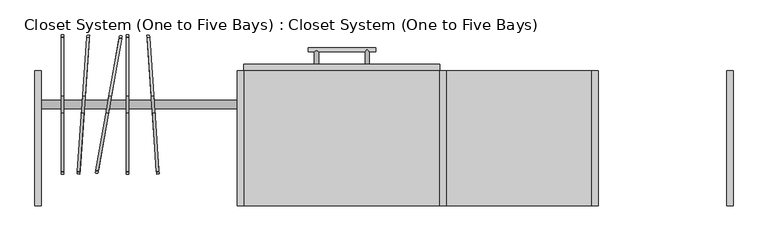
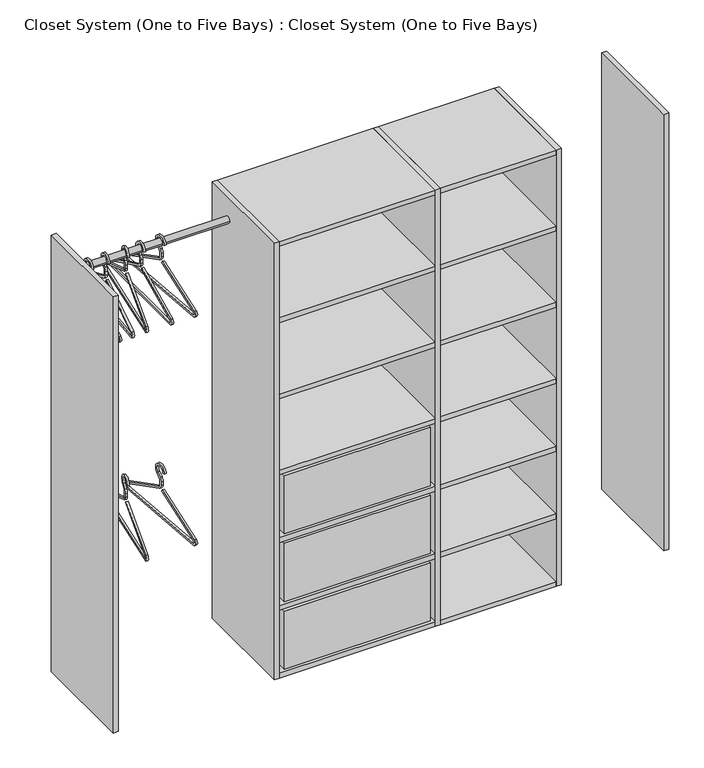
"""IFC4 building model written with IfcOpenShell, lengths in millimetres: furniture geometry, Closet System (One to Five Bays) : Closet System (One to Five Bays)."""

from ifc_helpers import new_model, si_unit, point, frame, frame_2d, origin, place, context, project, spatial, polyline, circle_curve, ellipse_curve, trimmed, segment, composite_curve, outline, extrude, faceted_brep, source, transform, mapped, element, save
from ifc_brep_helpers import plane_surface, cylinder_surface, advanced_brep


def closet_system_one_to_five_bays_closet_system_one_to_five_99dbb15d(model_context):
    return source(origin(), model_context, "Body", "SolidModel", [
        extrude(outline(polyline([(2101.85, 0.0), (2082.8, 0.0), (2082.8, 406.4), (2101.85, 406.4), (2101.85, 0.0)])), frame((0.0, 0.0, 82.55), z_axis=(0.0, 0.0, 1.0), x_axis=(1.0, 0.0, 0.0)), (0.0, 0.0, 1.0), 1746.25),
        extrude(outline(polyline([(1695.45, 0.0), (1676.4, 0.0), (1676.4, 406.4), (1695.45, 406.4), (1695.45, 0.0)])), frame((0.0, 0.0, 82.55), z_axis=(0.0, 0.0, 1.0), x_axis=(1.0, 0.0, 0.0)), (0.0, 0.0, 1.0), 1746.25),
        extrude(outline(polyline([(1238.25, 0.0), (1219.2, 0.0), (1219.2, 406.4), (1238.25, 406.4), (1238.25, 0.0)])), frame((0.0, 0.0, 82.55), z_axis=(0.0, 0.0, 1.0), x_axis=(1.0, 0.0, 0.0)), (0.0, 0.0, 1.0), 1746.25),
        extrude(outline(polyline([(628.65, 0.0), (609.6, 0.0), (609.6, 406.4), (628.65, 406.4), (628.65, 0.0)])), frame((0.0, 0.0, 82.55), z_axis=(0.0, 0.0, 1.0), x_axis=(1.0, 0.0, 0.0)), (0.0, 0.0, 1.0), 1746.25),
        extrude(outline(polyline([(19.05, 0.0), (0.0, 0.0), (0.0, 406.4), (19.05, 406.4), (19.05, 0.0)])), frame((0.0, 0.0, 82.55), z_axis=(0.0, 0.0, 1.0), x_axis=(1.0, 0.0, 0.0)), (0.0, 0.0, 1.0), 1746.25),
        faceted_brep([(1238.25, 406.4, 1200.15), (1238.25, 387.35, 1200.15), (1238.25, 0.0, 1200.15), (1238.25, 0.0, 1219.2), (1238.25, 387.35, 1219.2), (1238.25, 406.4, 1219.2), (1676.4, 0.0, 1200.15), (1676.4, 387.35, 1200.15), (1676.4, 406.4, 1200.15), (1676.4, 406.4, 1219.2), (1676.4, 387.35, 1219.2), (1676.4, 0.0, 1219.2)], [[[0, 1, 2, 3, 4, 5]], [[6, 7, 8, 9, 10, 11]], [[2, 1, 0, 8, 7, 6]], [[5, 9, 8, 0]], [[5, 4, 3, 11, 10, 9]], [[2, 6, 11, 3]]]),
        faceted_brep([(1238.25, 406.4, 1504.95), (1238.25, 387.35, 1504.95), (1238.25, 0.0, 1504.95), (1238.25, 0.0, 1524.0), (1238.25, 387.35, 1524.0), (1238.25, 406.4, 1524.0), (1676.4, 0.0, 1504.95), (1676.4, 387.35, 1504.95), (1676.4, 406.4, 1504.95), (1676.4, 406.4, 1524.0), (1676.4, 387.35, 1524.0), (1676.4, 0.0, 1524.0)], [[[0, 1, 2, 3, 4, 5]], [[6, 7, 8, 9, 10, 11]], [[2, 1, 0, 8, 7, 6]], [[5, 9, 8, 0]], [[5, 4, 3, 11, 10, 9]], [[2, 6, 11, 3]]]),
        faceted_brep([(1238.25, 406.4, 624.4166667), (1238.25, 387.35, 624.4166667), (1238.25, 0.0, 624.4166667), (1238.25, 0.0, 643.4666667), (1238.25, 387.35, 643.4666667), (1238.25, 406.4, 643.4666667), (1676.4, 0.0, 624.4166667), (1676.4, 387.35, 624.4166667), (1676.4, 406.4, 624.4166667), (1676.4, 406.4, 643.4666667), (1676.4, 387.35, 643.4666667), (1676.4, 0.0, 643.4666667)], [[[0, 1, 2, 3, 4, 5]], [[6, 7, 8, 9, 10, 11]], [[2, 1, 0, 8, 7, 6]], [[5, 9, 8, 0]], [[5, 4, 3, 11, 10, 9]], [[2, 6, 11, 3]]]),
        faceted_brep([(1238.25, 406.4, 353.4833333), (1238.25, 387.35, 353.4833333), (1238.25, 0.0, 353.4833333), (1238.25, 0.0, 372.5333333), (1238.25, 387.35, 372.5333333), (1238.25, 406.4, 372.5333333), (1676.4, 0.0, 372.5333333), (1676.4, 387.35, 372.5333333), (1676.4, 406.4, 372.5333333), (1676.4, 0.0, 353.4833333), (1676.4, 387.35, 353.4833333), (1676.4, 406.4, 353.4833333)], [[[0, 1, 2, 3, 4, 5]], [[5, 4, 3, 6, 7, 8]], [[2, 9, 6, 3]], [[9, 10, 11, 8, 7, 6]], [[2, 1, 0, 11, 10, 9]], [[5, 8, 11, 0]]]),
        faceted_brep([(1238.25, 406.4, 82.55), (1238.25, 387.35, 82.55), (1238.25, 0.0, 82.55), (1238.25, 0.0, 101.6), (1238.25, 387.35, 101.6), (1238.25, 406.4, 101.6), (1676.4, 0.0, 82.55), (1676.4, 387.35, 82.55), (1676.4, 406.4, 82.55), (1676.4, 406.4, 101.6), (1676.4, 387.35, 101.6), (1676.4, 0.0, 101.6)], [[[0, 1, 2, 3, 4, 5]], [[6, 7, 8, 9, 10, 11]], [[2, 1, 0, 8, 7, 6]], [[5, 9, 8, 0]], [[5, 4, 3, 11, 10, 9]], [[2, 6, 11, 3]]]),
        extrude(outline(polyline([(1676.4, 406.4), (1676.4, 0.0), (1238.25, 0.0), (1238.25, 406.4), (1676.4, 406.4)])), frame((0.0, 0.0, 895.35), z_axis=(0.0, 0.0, 1.0), x_axis=(1.0, 0.0, 0.0)), (0.0, 0.0, 1.0), 19.05),
        extrude(outline(polyline([(1676.4, 406.4), (1676.4, 0.0), (1238.25, 0.0), (1238.25, 406.4), (1676.4, 406.4)])), frame((0.0, 0.0, 1809.75), z_axis=(0.0, 0.0, 1.0), x_axis=(1.0, 0.0, 0.0)), (0.0, 0.0, 1.0), 19.05),
        advanced_brep(
        [(1006.475, 425.45, 769.4083333), (993.775, 425.45, 769.4083333), (1006.475, 463.55, 769.4083333), (1000.125, 469.9, 775.7583333), (993.775, 463.55, 769.4083333), (1000.125, 469.9, 763.0583333), (1025.525, 463.55, 769.4083333), (1025.525, 476.25, 769.4083333), (822.325, 463.55, 769.4083333), (822.325, 476.25, 769.4083333), (841.375, 463.55, 769.4083333), (847.725, 469.9, 775.7583333), (854.075, 463.55, 769.4083333), (847.725, 469.9, 763.0583333), (841.375, 425.45, 769.4083333), (854.075, 425.45, 769.4083333)],
        [
            (0, 1, circle_curve(frame((1000.125, 425.45, 769.4083333), z_axis=(0.0, -1.0, 0.0), x_axis=(-1.0, 0.0, 0.0)), 6.35)),
            (1, 0, circle_curve(frame((1000.125, 425.45, 769.4083333), z_axis=(0.0, -1.0, 0.0), x_axis=(-1.0, 0.0, 0.0)), 6.35)),
            (0, 2),
            (2, 3, ellipse_curve(frame((1000.125, 469.9, 769.4083333), z_axis=(-0.7071067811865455, -0.7071067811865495, 0.0), x_axis=(-0.7071067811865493, 0.7071067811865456, 0.0)), 8.9802561, 6.35)),
            (3, 4, ellipse_curve(frame((1000.125, 469.9, 769.4083333), z_axis=(0.7071067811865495, -0.7071067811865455, 0.0), x_axis=(0.7071067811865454, 0.7071067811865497, 0.0)), 8.9802561, 6.35)),
            (4, 1),
            (4, 5, ellipse_curve(frame((1000.125, 469.9, 769.4083333), z_axis=(0.7071067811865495, -0.7071067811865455, 0.0), x_axis=(0.7071067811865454, 0.7071067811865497, 0.0)), 8.9802561, 6.35)),
            (5, 2, ellipse_curve(frame((1000.125, 469.9, 769.4083333), z_axis=(-0.7071067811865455, -0.7071067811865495, 0.0), x_axis=(-0.7071067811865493, 0.7071067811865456, 0.0)), 8.9802561, 6.35)),
            (6, 7, circle_curve(frame((1025.525, 469.9, 769.4083333), z_axis=(1.0, 0.0, 0.0), x_axis=(0.0, 1.0, 0.0)), 6.35)),
            (7, 6, circle_curve(frame((1025.525, 469.9, 769.4083333), z_axis=(1.0, 0.0, 0.0), x_axis=(0.0, 1.0, 0.0)), 6.35)),
            (8, 9, circle_curve(frame((822.325, 469.9, 769.4083333), z_axis=(-1.0, 0.0, 0.0), x_axis=(0.0, 1.0, 0.0)), 6.35)),
            (9, 8, circle_curve(frame((822.325, 469.9, 769.4083333), z_axis=(-1.0, 0.0, 0.0), x_axis=(0.0, 1.0, 0.0)), 6.35)),
            (7, 9),
            (8, 10),
            (10, 11, ellipse_curve(frame((847.725, 469.9, 769.4083333), z_axis=(-0.7071067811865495, 0.7071067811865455, 0.0), x_axis=(0.7071067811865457, 0.7071067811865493, 0.0)), 8.9802561, 6.35)),
            (11, 12, ellipse_curve(frame((847.725, 469.9, 769.4083333), z_axis=(0.7071067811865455, 0.7071067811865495, 0.0), x_axis=(0.7071067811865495, -0.7071067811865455, 0.0)), 8.9802561, 6.35)),
            (12, 4),
            (2, 6),
            (12, 13, ellipse_curve(frame((847.725, 469.9, 769.4083333), z_axis=(0.7071067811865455, 0.7071067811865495, 0.0), x_axis=(0.7071067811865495, -0.7071067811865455, 0.0)), 8.9802561, 6.35)),
            (13, 10, ellipse_curve(frame((847.725, 469.9, 769.4083333), z_axis=(-0.7071067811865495, 0.7071067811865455, 0.0), x_axis=(0.7071067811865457, 0.7071067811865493, 0.0)), 8.9802561, 6.35)),
            (14, 15, circle_curve(frame((847.725, 425.45, 769.4083333), z_axis=(0.0, -1.0, 0.0), x_axis=(1.0, 0.0, 0.0)), 6.35)),
            (15, 14, circle_curve(frame((847.725, 425.45, 769.4083333), z_axis=(0.0, -1.0, 0.0), x_axis=(1.0, 0.0, 0.0)), 6.35)),
            (15, 12),
            (10, 14),
        ],
        [
            plane_surface(frame((1000.125, 425.45, 769.4083333), z_axis=(0.0, -1.0, 0.0), x_axis=(0.0, 0.0, 1.0))),
            cylinder_surface(frame((1000.125, 469.9, 769.4083333), z_axis=(0.0, 1.0, 0.0), x_axis=(-1.0, 0.0, 0.0)), 6.35),
            plane_surface(frame((1025.525, 469.9, 769.4083333), z_axis=(1.0, 0.0, 0.0), x_axis=(0.0, 0.0, 1.0))),
            plane_surface(frame((822.325, 469.9, 769.4083333), z_axis=(-1.0, 0.0, 0.0), x_axis=(0.0, 0.0, 1.0))),
            cylinder_surface(frame((1025.525, 469.9, 769.4083333), z_axis=(1.0, 0.0, 0.0), x_axis=(0.0, 1.0, 0.0)), 6.35),
            plane_surface(frame((847.725, 425.45, 769.4083333), z_axis=(0.0, -1.0, 0.0), x_axis=(0.0, 0.0, 1.0))),
            cylinder_surface(frame((847.725, 469.9, 769.4083333), z_axis=(0.0, 1.0, 0.0), x_axis=(1.0, 0.0, 0.0)), 6.35),
        ],
        [
            (0, [[1, 2]]),
            (1, [[3, 4, 5, 6, -1]]),
            (1, [[-6, 7, 8, -3, -2]]),
            (2, [[9, 10]]),
            (3, [[11, 12]]),
            (4, [[13, -11, 14, 15, 16, 17, -5, -4, 18, -10]]),
            (4, [[-18, -8, -7, -17, 19, 20, -14, -12, -13, -9]]),
            (5, [[21, 22]]),
            (6, [[23, -16, -15, 24, -22]]),
            (6, [[-24, -20, -19, -23, -21]]),
        ],
    ),
        extrude(outline(polyline([(1219.2, 425.45), (1219.2, 406.4), (628.65, 406.4), (628.65, 425.45), (1219.2, 425.45)])), frame((0.0, 0.0, 633.9416667), z_axis=(0.0, 0.0, 1.0), x_axis=(1.0, 0.0, 0.0)), (0.0, 0.0, 1.0), 270.9333333),
        faceted_brep([(1200.15, 0.0, 885.825), (1200.15, 406.4, 885.825), (647.7, 406.4, 885.825), (647.7, 0.0, 885.825), (1181.1, 19.05, 885.825), (666.75, 19.05, 885.825), (666.75, 387.35, 885.825), (1181.1, 387.35, 885.825), (1200.15, 0.0, 652.9916667), (647.7, 0.0, 652.9916667), (647.7, 406.4, 652.9916667), (1200.15, 406.4, 652.9916667), (1181.1, 387.35, 662.5166667), (1181.1, 19.05, 662.5166667), (666.75, 387.35, 662.5166667), (666.75, 19.05, 662.5166667)], [[[0, 1, 2, 3], [4, 5, 6, 7]], [[8, 9, 10, 11]], [[3, 9, 8, 0]], [[2, 10, 9, 3]], [[1, 11, 10, 2]], [[0, 8, 11, 1]], [[7, 12, 13, 4]], [[6, 14, 12, 7]], [[5, 15, 14, 6]], [[4, 13, 15, 5]], [[12, 14, 15, 13]]]),
        advanced_brep(
        [(1006.475, 425.45, 498.475), (993.775, 425.45, 498.475), (1006.475, 463.55, 498.475), (1000.125, 469.9, 504.825), (993.775, 463.55, 498.475), (1000.125, 469.9, 492.125), (1025.525, 463.55, 498.475), (1025.525, 476.25, 498.475), (822.325, 463.55, 498.475), (822.325, 476.25, 498.475), (841.375, 463.55, 498.475), (847.725, 469.9, 504.825), (854.075, 463.55, 498.475), (847.725, 469.9, 492.125), (841.375, 425.45, 498.475), (854.075, 425.45, 498.475)],
        [
            (0, 1, circle_curve(frame((1000.125, 425.45, 498.475), z_axis=(0.0, -1.0, 0.0), x_axis=(-1.0, 0.0, 0.0)), 6.35)),
            (1, 0, circle_curve(frame((1000.125, 425.45, 498.475), z_axis=(0.0, -1.0, 0.0), x_axis=(-1.0, 0.0, 0.0)), 6.35)),
            (0, 2),
            (2, 3, ellipse_curve(frame((1000.125, 469.9, 498.475), z_axis=(-0.7071067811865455, -0.7071067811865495, 0.0), x_axis=(-0.7071067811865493, 0.7071067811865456, 0.0)), 8.9802561, 6.35)),
            (3, 4, ellipse_curve(frame((1000.125, 469.9, 498.475), z_axis=(0.7071067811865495, -0.7071067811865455, 0.0), x_axis=(0.7071067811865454, 0.7071067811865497, 0.0)), 8.9802561, 6.35)),
            (4, 1),
            (4, 5, ellipse_curve(frame((1000.125, 469.9, 498.475), z_axis=(0.7071067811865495, -0.7071067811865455, 0.0), x_axis=(0.7071067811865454, 0.7071067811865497, 0.0)), 8.9802561, 6.35)),
            (5, 2, ellipse_curve(frame((1000.125, 469.9, 498.475), z_axis=(-0.7071067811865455, -0.7071067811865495, 0.0), x_axis=(-0.7071067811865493, 0.7071067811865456, 0.0)), 8.9802561, 6.35)),
            (6, 7, circle_curve(frame((1025.525, 469.9, 498.475), z_axis=(1.0, 0.0, 0.0), x_axis=(0.0, 1.0, 0.0)), 6.35)),
            (7, 6, circle_curve(frame((1025.525, 469.9, 498.475), z_axis=(1.0, 0.0, 0.0), x_axis=(0.0, 1.0, 0.0)), 6.35)),
            (8, 9, circle_curve(frame((822.325, 469.9, 498.475), z_axis=(-1.0, 0.0, 0.0), x_axis=(0.0, 1.0, 0.0)), 6.35)),
            (9, 8, circle_curve(frame((822.325, 469.9, 498.475), z_axis=(-1.0, 0.0, 0.0), x_axis=(0.0, 1.0, 0.0)), 6.35)),
            (7, 9),
            (8, 10),
            (10, 11, ellipse_curve(frame((847.725, 469.9, 498.475), z_axis=(-0.7071067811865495, 0.7071067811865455, 0.0), x_axis=(0.7071067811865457, 0.7071067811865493, 0.0)), 8.9802561, 6.35)),
            (11, 12, ellipse_curve(frame((847.725, 469.9, 498.475), z_axis=(0.7071067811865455, 0.7071067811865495, 0.0), x_axis=(0.7071067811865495, -0.7071067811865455, 0.0)), 8.9802561, 6.35)),
            (12, 4),
            (2, 6),
            (12, 13, ellipse_curve(frame((847.725, 469.9, 498.475), z_axis=(0.7071067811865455, 0.7071067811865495, 0.0), x_axis=(0.7071067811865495, -0.7071067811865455, 0.0)), 8.9802561, 6.35)),
            (13, 10, ellipse_curve(frame((847.725, 469.9, 498.475), z_axis=(-0.7071067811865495, 0.7071067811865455, 0.0), x_axis=(0.7071067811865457, 0.7071067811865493, 0.0)), 8.9802561, 6.35)),
            (14, 15, circle_curve(frame((847.725, 425.45, 498.475), z_axis=(0.0, -1.0, 0.0), x_axis=(1.0, 0.0, 0.0)), 6.35)),
            (15, 14, circle_curve(frame((847.725, 425.45, 498.475), z_axis=(0.0, -1.0, 0.0), x_axis=(1.0, 0.0, 0.0)), 6.35)),
            (15, 12),
            (10, 14),
        ],
        [
            plane_surface(frame((1000.125, 425.45, 498.475), z_axis=(0.0, -1.0, 0.0), x_axis=(0.0, 0.0, 1.0))),
            cylinder_surface(frame((1000.125, 469.9, 498.475), z_axis=(0.0, 1.0, 0.0), x_axis=(-1.0, 0.0, 0.0)), 6.35),
            plane_surface(frame((1025.525, 469.9, 498.475), z_axis=(1.0, 0.0, 0.0), x_axis=(0.0, 0.0, 1.0))),
            plane_surface(frame((822.325, 469.9, 498.475), z_axis=(-1.0, 0.0, 0.0), x_axis=(0.0, 0.0, 1.0))),
            cylinder_surface(frame((1025.525, 469.9, 498.475), z_axis=(1.0, 0.0, 0.0), x_axis=(0.0, 1.0, 0.0)), 6.35),
            plane_surface(frame((847.725, 425.45, 498.475), z_axis=(0.0, -1.0, 0.0), x_axis=(0.0, 0.0, 1.0))),
            cylinder_surface(frame((847.725, 469.9, 498.475), z_axis=(0.0, 1.0, 0.0), x_axis=(1.0, 0.0, 0.0)), 6.35),
        ],
        [
            (0, [[1, 2]]),
            (1, [[3, 4, 5, 6, -1]]),
            (1, [[-6, 7, 8, -3, -2]]),
            (2, [[9, 10]]),
            (3, [[11, 12]]),
            (4, [[13, -11, 14, 15, 16, 17, -5, -4, 18, -10]]),
            (4, [[-18, -8, -7, -17, 19, 20, -14, -12, -13, -9]]),
            (5, [[21, 22]]),
            (6, [[23, -16, -15, 24, -22]]),
            (6, [[-24, -20, -19, -23, -21]]),
        ],
    ),
        extrude(outline(polyline([(1219.2, 425.45), (1219.2, 406.4), (628.65, 406.4), (628.65, 425.45), (1219.2, 425.45)])), frame((0.0, 0.0, 363.0083333), z_axis=(0.0, 0.0, 1.0), x_axis=(1.0, 0.0, 0.0)), (0.0, 0.0, 1.0), 270.9333333),
        faceted_brep([(1200.15, 0.0, 614.8916667), (1200.15, 406.4, 614.8916667), (647.7, 406.4, 614.8916667), (647.7, 0.0, 614.8916667), (1181.1, 19.05, 614.8916667), (666.75, 19.05, 614.8916667), (666.75, 387.35, 614.8916667), (1181.1, 387.35, 614.8916667), (1200.15, 0.0, 382.0583333), (647.7, 0.0, 382.0583333), (647.7, 406.4, 382.0583333), (1200.15, 406.4, 382.0583333), (1181.1, 387.35, 391.5833333), (1181.1, 19.05, 391.5833333), (666.75, 387.35, 391.5833333), (666.75, 19.05, 391.5833333)], [[[0, 1, 2, 3], [4, 5, 6, 7]], [[8, 9, 10, 11]], [[3, 9, 8, 0]], [[2, 10, 9, 3]], [[1, 11, 10, 2]], [[0, 8, 11, 1]], [[7, 12, 13, 4]], [[6, 14, 12, 7]], [[5, 15, 14, 6]], [[4, 13, 15, 5]], [[12, 14, 15, 13]]]),
        advanced_brep(
        [(1006.475, 425.45, 227.5416667), (993.775, 425.45, 227.5416667), (1006.475, 463.55, 227.5416667), (1000.125, 469.9, 233.8916667), (993.775, 463.55, 227.5416667), (1000.125, 469.9, 221.1916667), (1025.525, 463.55, 227.5416667), (1025.525, 476.25, 227.5416667), (822.325, 463.55, 227.5416667), (822.325, 476.25, 227.5416667), (841.375, 463.55, 227.5416667), (847.725, 469.9, 233.8916667), (854.075, 463.55, 227.5416667), (847.725, 469.9, 221.1916667), (841.375, 425.45, 227.5416667), (854.075, 425.45, 227.5416667)],
        [
            (0, 1, circle_curve(frame((1000.125, 425.45, 227.5416667), z_axis=(0.0, -1.0, 0.0), x_axis=(-1.0, 0.0, 0.0)), 6.35)),
            (1, 0, circle_curve(frame((1000.125, 425.45, 227.5416667), z_axis=(0.0, -1.0, 0.0), x_axis=(-1.0, 0.0, 0.0)), 6.35)),
            (0, 2),
            (2, 3, ellipse_curve(frame((1000.125, 469.9, 227.5416667), z_axis=(-0.7071067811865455, -0.7071067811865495, 0.0), x_axis=(-0.7071067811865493, 0.7071067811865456, 0.0)), 8.9802561, 6.35)),
            (3, 4, ellipse_curve(frame((1000.125, 469.9, 227.5416667), z_axis=(0.7071067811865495, -0.7071067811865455, 0.0), x_axis=(0.7071067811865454, 0.7071067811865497, 0.0)), 8.9802561, 6.35)),
            (4, 1),
            (4, 5, ellipse_curve(frame((1000.125, 469.9, 227.5416667), z_axis=(0.7071067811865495, -0.7071067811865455, 0.0), x_axis=(0.7071067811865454, 0.7071067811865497, 0.0)), 8.9802561, 6.35)),
            (5, 2, ellipse_curve(frame((1000.125, 469.9, 227.5416667), z_axis=(-0.7071067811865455, -0.7071067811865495, 0.0), x_axis=(-0.7071067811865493, 0.7071067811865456, 0.0)), 8.9802561, 6.35)),
            (6, 7, circle_curve(frame((1025.525, 469.9, 227.5416667), z_axis=(1.0, 0.0, 0.0), x_axis=(0.0, 1.0, 0.0)), 6.35)),
            (7, 6, circle_curve(frame((1025.525, 469.9, 227.5416667), z_axis=(1.0, 0.0, 0.0), x_axis=(0.0, 1.0, 0.0)), 6.35)),
            (8, 9, circle_curve(frame((822.325, 469.9, 227.5416667), z_axis=(-1.0, 0.0, 0.0), x_axis=(0.0, 1.0, 0.0)), 6.35)),
            (9, 8, circle_curve(frame((822.325, 469.9, 227.5416667), z_axis=(-1.0, 0.0, 0.0), x_axis=(0.0, 1.0, 0.0)), 6.35)),
            (7, 9),
            (8, 10),
            (10, 11, ellipse_curve(frame((847.725, 469.9, 227.5416667), z_axis=(-0.7071067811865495, 0.7071067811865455, 0.0), x_axis=(0.7071067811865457, 0.7071067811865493, 0.0)), 8.9802561, 6.35)),
            (11, 12, ellipse_curve(frame((847.725, 469.9, 227.5416667), z_axis=(0.7071067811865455, 0.7071067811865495, 0.0), x_axis=(0.7071067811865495, -0.7071067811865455, 0.0)), 8.9802561, 6.35)),
            (12, 4),
            (2, 6),
            (12, 13, ellipse_curve(frame((847.725, 469.9, 227.5416667), z_axis=(0.7071067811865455, 0.7071067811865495, 0.0), x_axis=(0.7071067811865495, -0.7071067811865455, 0.0)), 8.9802561, 6.35)),
            (13, 10, ellipse_curve(frame((847.725, 469.9, 227.5416667), z_axis=(-0.7071067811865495, 0.7071067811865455, 0.0), x_axis=(0.7071067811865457, 0.7071067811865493, 0.0)), 8.9802561, 6.35)),
            (14, 15, circle_curve(frame((847.725, 425.45, 227.5416667), z_axis=(0.0, -1.0, 0.0), x_axis=(1.0, 0.0, 0.0)), 6.35)),
            (15, 14, circle_curve(frame((847.725, 425.45, 227.5416667), z_axis=(0.0, -1.0, 0.0), x_axis=(1.0, 0.0, 0.0)), 6.35)),
            (15, 12),
            (10, 14),
        ],
        [
            plane_surface(frame((1000.125, 425.45, 227.5416667), z_axis=(0.0, -1.0, 0.0), x_axis=(0.0, 0.0, 1.0))),
            cylinder_surface(frame((1000.125, 469.9, 227.5416667), z_axis=(0.0, 1.0, 0.0), x_axis=(-1.0, 0.0, 0.0)), 6.35),
            plane_surface(frame((1025.525, 469.9, 227.5416667), z_axis=(1.0, 0.0, 0.0), x_axis=(0.0, 0.0, 1.0))),
            plane_surface(frame((822.325, 469.9, 227.5416667), z_axis=(-1.0, 0.0, 0.0), x_axis=(0.0, 0.0, 1.0))),
            cylinder_surface(frame((1025.525, 469.9, 227.5416667), z_axis=(1.0, 0.0, 0.0), x_axis=(0.0, 1.0, 0.0)), 6.35),
            plane_surface(frame((847.725, 425.45, 227.5416667), z_axis=(0.0, -1.0, 0.0), x_axis=(0.0, 0.0, 1.0))),
            cylinder_surface(frame((847.725, 469.9, 227.5416667), z_axis=(0.0, 1.0, 0.0), x_axis=(1.0, 0.0, 0.0)), 6.35),
        ],
        [
            (0, [[1, 2]]),
            (1, [[3, 4, 5, 6, -1]]),
            (1, [[-6, 7, 8, -3, -2]]),
            (2, [[9, 10]]),
            (3, [[11, 12]]),
            (4, [[13, -11, 14, 15, 16, 17, -5, -4, 18, -10]]),
            (4, [[-18, -8, -7, -17, 19, 20, -14, -12, -13, -9]]),
            (5, [[21, 22]]),
            (6, [[23, -16, -15, 24, -22]]),
            (6, [[-24, -20, -19, -23, -21]]),
        ],
    ),
        extrude(outline(polyline([(1219.2, 425.45), (1219.2, 406.4), (628.65, 406.4), (628.65, 425.45), (1219.2, 425.45)])), frame((0.0, 0.0, 92.075), z_axis=(0.0, 0.0, 1.0), x_axis=(1.0, 0.0, 0.0)), (0.0, 0.0, 1.0), 270.9333333),
        faceted_brep([(1200.15, 0.0, 343.9583333), (1200.15, 406.4, 343.9583333), (647.7, 406.4, 343.9583333), (647.7, 0.0, 343.9583333), (1181.1, 19.05, 343.9583333), (666.75, 19.05, 343.9583333), (666.75, 387.35, 343.9583333), (1181.1, 387.35, 343.9583333), (1200.15, 0.0, 111.125), (647.7, 0.0, 111.125), (647.7, 406.4, 111.125), (1200.15, 406.4, 111.125), (1181.1, 387.35, 120.65), (1181.1, 19.05, 120.65), (666.75, 387.35, 120.65), (666.75, 19.05, 120.65)], [[[0, 1, 2, 3], [4, 5, 6, 7]], [[8, 9, 10, 11]], [[3, 9, 8, 0]], [[2, 10, 9, 3]], [[1, 11, 10, 2]], [[0, 8, 11, 1]], [[7, 12, 13, 4]], [[6, 14, 12, 7]], [[5, 15, 14, 6]], [[4, 13, 15, 5]], [[12, 14, 15, 13]]]),
        faceted_brep([(628.65, 406.4, 1200.15), (628.65, 387.35, 1200.15), (628.65, 0.0, 1200.15), (628.65, 0.0, 1219.2), (628.65, 387.35, 1219.2), (628.65, 406.4, 1219.2), (1219.2, 0.0, 1200.15), (1219.2, 387.35, 1200.15), (1219.2, 406.4, 1200.15), (1219.2, 406.4, 1219.2), (1219.2, 387.35, 1219.2), (1219.2, 0.0, 1219.2)], [[[0, 1, 2, 3, 4, 5]], [[6, 7, 8, 9, 10, 11]], [[2, 1, 0, 8, 7, 6]], [[5, 9, 8, 0]], [[5, 4, 3, 11, 10, 9]], [[2, 6, 11, 3]]]),
        faceted_brep([(628.65, 406.4, 1504.95), (628.65, 387.35, 1504.95), (628.65, 0.0, 1504.95), (628.65, 0.0, 1524.0), (628.65, 387.35, 1524.0), (628.65, 406.4, 1524.0), (1219.2, 0.0, 1504.95), (1219.2, 387.35, 1504.95), (1219.2, 406.4, 1504.95), (1219.2, 406.4, 1524.0), (1219.2, 387.35, 1524.0), (1219.2, 0.0, 1524.0)], [[[0, 1, 2, 3, 4, 5]], [[6, 7, 8, 9, 10, 11]], [[2, 1, 0, 8, 7, 6]], [[5, 9, 8, 0]], [[5, 4, 3, 11, 10, 9]], [[2, 6, 11, 3]]]),
        faceted_brep([(628.65, 406.4, 624.4166667), (628.65, 387.35, 624.4166667), (628.65, 0.0, 624.4166667), (628.65, 0.0, 643.4666667), (628.65, 387.35, 643.4666667), (628.65, 406.4, 643.4666667), (1219.2, 0.0, 624.4166667), (1219.2, 387.35, 624.4166667), (1219.2, 406.4, 624.4166667), (1219.2, 406.4, 643.4666667), (1219.2, 387.35, 643.4666667), (1219.2, 0.0, 643.4666667)], [[[0, 1, 2, 3, 4, 5]], [[6, 7, 8, 9, 10, 11]], [[2, 1, 0, 8, 7, 6]], [[5, 9, 8, 0]], [[5, 4, 3, 11, 10, 9]], [[2, 6, 11, 3]]]),
        faceted_brep([(628.65, 406.4, 353.4833333), (628.65, 387.35, 353.4833333), (628.65, 0.0, 353.4833333), (628.65, 0.0, 372.5333333), (628.65, 387.35, 372.5333333), (628.65, 406.4, 372.5333333), (1219.2, 0.0, 353.4833333), (1219.2, 387.35, 353.4833333), (1219.2, 406.4, 353.4833333), (1219.2, 406.4, 372.5333333), (1219.2, 387.35, 372.5333333), (1219.2, 0.0, 372.5333333)], [[[0, 1, 2, 3, 4, 5]], [[6, 7, 8, 9, 10, 11]], [[2, 1, 0, 8, 7, 6]], [[5, 9, 8, 0]], [[5, 4, 3, 11, 10, 9]], [[2, 6, 11, 3]]]),
        faceted_brep([(628.65, 406.4, 82.55), (628.65, 387.35, 82.55), (628.65, 0.0, 82.55), (628.65, 0.0, 101.6), (628.65, 387.35, 101.6), (628.65, 406.4, 101.6), (1219.2, 0.0, 82.55), (1219.2, 387.35, 82.55), (1219.2, 406.4, 82.55), (1219.2, 406.4, 101.6), (1219.2, 387.35, 101.6), (1219.2, 0.0, 101.6)], [[[0, 1, 2, 3, 4, 5]], [[6, 7, 8, 9, 10, 11]], [[2, 1, 0, 8, 7, 6]], [[5, 9, 8, 0]], [[5, 4, 3, 11, 10, 9]], [[2, 6, 11, 3]]]),
        extrude(outline(polyline([(1219.2, 406.4), (1219.2, 0.0), (628.65, 0.0), (628.65, 406.4), (1219.2, 406.4)])), frame((0.0, 0.0, 895.35), z_axis=(0.0, 0.0, 1.0), x_axis=(1.0, 0.0, 0.0)), (0.0, 0.0, 1.0), 19.05),
        extrude(outline(polyline([(1219.2, 406.4), (1219.2, 0.0), (628.65, 0.0), (628.65, 406.4), (1219.2, 406.4)])), frame((0.0, 0.0, 1809.75), z_axis=(0.0, 0.0, 1.0), x_axis=(1.0, 0.0, 0.0)), (0.0, 0.0, 1.0), 19.05),
        extrude(outline(composite_curve([segment(polyline([(0.0, 7.62), (209.55, 7.62)]), True, "CONTINUOUS"), segment(trimmed(circle_curve(frame_2d((209.55, -5.08)), 12.7), [point((209.55, 7.62))], [point((215.0168758, -16.5431265))], False, "CARTESIAN"), True, "CONTINUOUS"), segment(polyline([(215.0168758, -16.5431265), (-140.3400452, -186.0162767)]), True, "CONTINUOUS"), segment(trimmed(circle_curve(frame_2d((-145.806921, -174.5531502)), 12.7), [point((-140.3400452, -186.0162767))], [point((-155.675817, -166.559722))], False, "CARTESIAN"), True, "CONTINUOUS"), segment(polyline([(-155.675817, -166.559722), (-19.6406824, 1.3928203)]), True, "CONTINUOUS"), segment(trimmed(circle_curve(frame_2d((-29.5095783, 9.3862485)), 12.7), [point((-19.6406824, 1.3928203))], [point((-18.0464518, 14.8531243))], True, "CARTESIAN"), True, "CONTINUOUS"), segment(polyline([(-18.0464518, 14.8531243), (-24.2041701, 27.7648322)]), True, "CONTINUOUS"), segment(trimmed(circle_curve(frame_2d((-35.6672966, 22.2979563)), 12.7), [point((-24.2041701, 27.7648322))], [point((-31.4273071, 34.2692757))], True, "CARTESIAN"), True, "CONTINUOUS"), segment(polyline([(-31.4273071, 34.2692757), (-50.411263, 40.9929937)]), True, "CONTINUOUS"), segment(trimmed(circle_curve(frame_2d((-41.931284, 64.9356325)), 25.4), [point((-50.411263, 40.9929937))], [point((-19.005031, 75.8693841))], False, "CARTESIAN"), True, "CONTINUOUS"), segment(polyline([(-19.005031, 75.8693841), (-25.882907, 72.5892586)]), True, "CONTINUOUS"), segment(trimmed(circle_curve(frame_2d((-41.931284, 64.9356325)), 17.78), [point((-25.882907, 72.5892586))], [point((-47.8672693, 48.1757852))], True, "CARTESIAN"), True, "CONTINUOUS"), segment(polyline([(-47.8672693, 48.1757852), (-28.8833133, 41.4520674)]), True, "CONTINUOUS"), segment(trimmed(circle_curve(frame_2d((-35.6672966, 22.2979563)), 20.32), [point((-28.8833133, 41.4520674))], [point((-17.3262942, 31.0449576))], False, "CARTESIAN"), True, "CONTINUOUS"), segment(polyline([(-17.3262942, 31.0449576), (-11.1685759, 18.1332497)]), True, "CONTINUOUS"), segment(trimmed(circle_curve(frame_2d((-29.5095783, 9.3862485)), 20.32), [point((-11.1685759, 18.1332497))], [point((-13.7193449, -3.4032366))], False, "CARTESIAN"), True, "CONTINUOUS"), segment(polyline([(-13.7193449, -3.4032366), (-149.7544794, -171.3557789)]), True, "CONTINUOUS"), segment(trimmed(circle_curve(frame_2d((-145.806921, -174.5531502)), 5.08), [point((-149.7544794, -171.3557789))], [point((-143.6201707, -179.1384008))], True, "CARTESIAN"), True, "CONTINUOUS"), segment(polyline([(-143.6201707, -179.1384008), (211.7367503, -9.6652506)]), True, "CONTINUOUS"), segment(trimmed(circle_curve(frame_2d((209.55, -5.08)), 5.08), [point((211.7367503, -9.6652506))], [point((209.55, 0.0))], True, "CARTESIAN"), True, "CONTINUOUS"), segment(polyline([(209.55, 0.0), (0.0, 0.0), (0.0, 7.62)]), True, "CONTINUOUS")], self_intersect=False)), frame((224.2838405, 294.3935669, 1663.2387015), z_axis=(-0.9848077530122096, 0.17364817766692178, 0.0), x_axis=(-0.15673630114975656, -0.8888957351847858, -0.4304626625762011)), (0.0, 0.0, 1.0), 7.62),
        extrude(outline(composite_curve([segment(polyline([(1e-07, 7.62), (209.55, 7.6199999)]), True, "CONTINUOUS"), segment(trimmed(circle_curve(frame_2d((209.55, 12.6999999)), 5.08), [point((209.55, 7.6199999))], [point((211.7367504, 17.2852505))], True, "CARTESIAN"), True, "CONTINUOUS"), segment(polyline([(211.7367504, 17.2852505), (-143.6201707, 186.7584008)]), True, "CONTINUOUS"), segment(trimmed(circle_curve(frame_2d((-145.806921, 182.1731502)), 5.08), [point((-143.6201707, 186.7584008))], [point((-149.7544794, 178.9757789))], True, "CARTESIAN"), True, "CONTINUOUS"), segment(polyline([(-149.7544794, 178.9757789), (-13.7193448, 11.0232366)]), True, "CONTINUOUS"), segment(trimmed(circle_curve(frame_2d((-29.5095783, -1.7662484)), 20.32), [point((-13.7193448, 11.0232366))], [point((-11.1685759, -10.5132497))], False, "CARTESIAN"), True, "CONTINUOUS"), segment(polyline([(-11.1685759, -10.5132497), (-17.3262942, -23.4249576)]), True, "CONTINUOUS"), segment(trimmed(circle_curve(frame_2d((-35.6672966, -14.6779563)), 20.32), [point((-17.3262942, -23.4249576))], [point((-28.8833133, -33.8320674))], False, "CARTESIAN"), True, "CONTINUOUS"), segment(polyline([(-28.8833133, -33.8320674), (-47.8672693, -40.5557852)]), True, "CONTINUOUS"), segment(trimmed(circle_curve(frame_2d((-41.931284, -57.3156325)), 17.78), [point((-47.8672693, -40.5557852))], [point((-25.8829069, -64.9692586))], True, "CARTESIAN"), True, "CONTINUOUS"), segment(polyline([(-25.8829069, -64.9692586), (-19.0050311, -68.2493841)]), True, "CONTINUOUS"), segment(trimmed(circle_curve(frame_2d((-41.931284, -57.3156325)), 25.4), [point((-19.0050311, -68.2493841))], [point((-50.4112631, -33.3729936))], False, "CARTESIAN"), True, "CONTINUOUS"), segment(polyline([(-50.4112631, -33.3729936), (-31.427307, -26.6492757)]), True, "CONTINUOUS"), segment(trimmed(circle_curve(frame_2d((-35.6672966, -14.6779563)), 12.7), [point((-31.427307, -26.6492757))], [point((-24.20417, -20.1448322))], True, "CARTESIAN"), True, "CONTINUOUS"), segment(polyline([(-24.20417, -20.1448322), (-18.0464518, -7.2331243)]), True, "CONTINUOUS"), segment(trimmed(circle_curve(frame_2d((-29.5095783, -1.7662484)), 12.7), [point((-18.0464518, -7.2331243))], [point((-19.6406824, 6.2271797))], True, "CARTESIAN"), True, "CONTINUOUS"), segment(polyline([(-19.6406824, 6.2271797), (-155.6758169, 174.179722)]), True, "CONTINUOUS"), segment(trimmed(circle_curve(frame_2d((-145.806921, 182.1731502)), 12.7), [point((-155.6758169, 174.179722))], [point((-140.3400452, 193.6362767))], False, "CARTESIAN"), True, "CONTINUOUS"), segment(polyline([(-140.3400452, 193.6362767), (215.0168759, 24.1631264)]), True, "CONTINUOUS"), segment(trimmed(circle_curve(frame_2d((209.55, 12.6999999)), 12.7), [point((215.0168759, 24.1631264))], [point((209.55, 0.0))], False, "CARTESIAN"), True, "CONTINUOUS"), segment(polyline([(209.55, 0.0), (0.0, 0.0), (1e-07, 7.62)]), True, "CONTINUOUS")], self_intersect=False)), frame((352.7183427, 291.3910334, 1670.1165774), z_axis=(0.9975640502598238, 0.0697564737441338, 0.0), x_axis=(0.06296277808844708, -0.9004096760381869, -0.4304626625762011)), (0.0, 0.0, 1.0), 7.62),
        extrude(outline(composite_curve([segment(polyline([(-1e-07, 7.62), (209.5499999, 7.62)]), True, "CONTINUOUS"), segment(trimmed(circle_curve(frame_2d((209.55, -5.08)), 12.7), [point((209.5499999, 7.62))], [point((215.0168758, -16.5431265))], False, "CARTESIAN"), True, "CONTINUOUS"), segment(polyline([(215.0168758, -16.5431265), (-140.3400453, -186.0162767)]), True, "CONTINUOUS"), segment(trimmed(circle_curve(frame_2d((-145.8069211, -174.5531502)), 12.7), [point((-140.3400453, -186.0162767))], [point((-155.675817, -166.5597221))], False, "CARTESIAN"), True, "CONTINUOUS"), segment(polyline([(-155.675817, -166.5597221), (-19.6406825, 1.3928202)]), True, "CONTINUOUS"), segment(trimmed(circle_curve(frame_2d((-29.5095784, 9.3862484)), 12.7), [point((-19.6406825, 1.3928202))], [point((-18.0464518, 14.8531243))], True, "CARTESIAN"), True, "CONTINUOUS"), segment(polyline([(-18.0464518, 14.8531243), (-24.2041701, 27.7648321)]), True, "CONTINUOUS"), segment(trimmed(circle_curve(frame_2d((-35.6672967, 22.2979563)), 12.7), [point((-24.2041701, 27.7648321))], [point((-31.4273071, 34.2692757))], True, "CARTESIAN"), True, "CONTINUOUS"), segment(polyline([(-31.4273071, 34.2692757), (-50.4112631, 40.9929936)]), True, "CONTINUOUS"), segment(trimmed(circle_curve(frame_2d((-41.931284, 64.9356325)), 25.4), [point((-50.4112631, 40.9929936))], [point((-19.0050311, 75.8693841))], False, "CARTESIAN"), True, "CONTINUOUS"), segment(polyline([(-19.0050311, 75.8693841), (-25.882907, 72.5892586)]), True, "CONTINUOUS"), segment(trimmed(circle_curve(frame_2d((-41.931284, 64.9356325)), 17.78), [point((-25.882907, 72.5892586))], [point((-47.8672694, 48.1757852))], True, "CARTESIAN"), True, "CONTINUOUS"), segment(polyline([(-47.8672694, 48.1757852), (-28.8833134, 41.4520674)]), True, "CONTINUOUS"), segment(trimmed(circle_curve(frame_2d((-35.6672967, 22.2979563)), 20.32), [point((-28.8833134, 41.4520674))], [point((-17.3262943, 31.0449576))], False, "CARTESIAN"), True, "CONTINUOUS"), segment(polyline([(-17.3262943, 31.0449576), (-11.168576, 18.1332497)]), True, "CONTINUOUS"), segment(trimmed(circle_curve(frame_2d((-29.5095784, 9.3862484)), 20.32), [point((-11.168576, 18.1332497))], [point((-13.7193449, -3.4032366))], False, "CARTESIAN"), True, "CONTINUOUS"), segment(polyline([(-13.7193449, -3.4032366), (-149.7544794, -171.355779)]), True, "CONTINUOUS"), segment(trimmed(circle_curve(frame_2d((-145.8069211, -174.5531502)), 5.08), [point((-149.7544794, -171.355779))], [point((-143.6201708, -179.1384008))], True, "CARTESIAN"), True, "CONTINUOUS"), segment(polyline([(-143.6201708, -179.1384008), (211.7367503, -9.6652506)]), True, "CONTINUOUS"), segment(trimmed(circle_curve(frame_2d((209.55, -5.08)), 5.08), [point((211.7367503, -9.6652506))], [point((209.55, 0.0))], True, "CARTESIAN"), True, "CONTINUOUS"), segment(polyline([(209.55, 0.0), (0.0, 0.0), (-1e-07, 7.62)]), True, "CONTINUOUS")], self_intersect=False)), frame((149.1604673, 294.6631686, 1663.2387015), z_axis=(-0.9975640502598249, 0.0697564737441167, 0.0), x_axis=(-0.06296277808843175, -0.900409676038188, -0.4304626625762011)), (0.0, 0.0, 1.0), 7.62),
        extrude(outline(composite_curve([segment(polyline([(294.9048367, 1663.2387015), (105.7632497, 1573.0352506)]), True, "CONTINUOUS"), segment(trimmed(circle_curve(frame_2d((107.95, 1568.45)), 5.08), [point((105.7632497, 1573.0352506))], [point((107.95, 1563.37))], True, "CARTESIAN"), True, "CONTINUOUS"), segment(polyline([(107.95, 1563.37), (501.65, 1563.37)]), True, "CONTINUOUS"), segment(trimmed(circle_curve(frame_2d((501.65, 1568.45)), 5.08), [point((501.65, 1563.37))], [point((503.8367503, 1573.0352506))], True, "CARTESIAN"), True, "CONTINUOUS"), segment(polyline([(503.8367503, 1573.0352506), (308.7529987, 1666.0725773)]), True, "CONTINUOUS"), segment(trimmed(circle_curve(frame_2d((317.5, 1684.4135797)), 20.32), [point((308.7529987, 1666.0725773))], [point((297.18, 1684.4135797))], False, "CARTESIAN"), True, "CONTINUOUS"), segment(polyline([(297.18, 1684.4135797), (297.18, 1698.7184633)]), True, "CONTINUOUS"), segment(trimmed(circle_curve(frame_2d((317.5, 1698.7184633)), 20.32), [point((297.18, 1698.7184633))], [point((303.1315902, 1713.0868731))], False, "CARTESIAN"), True, "CONTINUOUS"), segment(polyline([(303.1315902, 1713.0868731), (317.3723586, 1727.3276414)]), True, "CONTINUOUS"), segment(trimmed(circle_curve(frame_2d((304.8, 1739.9)), 17.78), [point((317.3723586, 1727.3276414))], [point((287.02, 1739.9))], True, "CARTESIAN"), True, "CONTINUOUS"), segment(polyline([(287.02, 1739.9), (279.4, 1739.9)]), True, "CONTINUOUS"), segment(trimmed(circle_curve(frame_2d((304.8, 1739.9)), 25.4), [point((279.4, 1739.9))], [point((322.7605122, 1721.9394878))], False, "CARTESIAN"), True, "CONTINUOUS"), segment(polyline([(322.7605122, 1721.9394878), (308.5197439, 1707.6987194)]), True, "CONTINUOUS"), segment(trimmed(circle_curve(frame_2d((317.5, 1698.7184633)), 12.7), [point((308.5197439, 1707.6987194))], [point((304.8, 1698.7184633))], True, "CARTESIAN"), True, "CONTINUOUS"), segment(polyline([(304.8, 1698.7184633), (304.8, 1684.4135797)]), True, "CONTINUOUS"), segment(trimmed(circle_curve(frame_2d((317.5, 1684.4135797)), 12.7), [point((304.8, 1684.4135797))], [point((312.0331242, 1672.9504532))], True, "CARTESIAN"), True, "CONTINUOUS"), segment(polyline([(312.0331242, 1672.9504532), (507.1168758, 1579.9131265)]), True, "CONTINUOUS"), segment(trimmed(circle_curve(frame_2d((501.65, 1568.45)), 12.7), [point((507.1168758, 1579.9131265))], [point((501.65, 1555.75))], False, "CARTESIAN"), True, "CONTINUOUS"), segment(polyline([(501.65, 1555.75), (107.95, 1555.75)]), True, "CONTINUOUS"), segment(trimmed(circle_curve(frame_2d((107.95, 1568.45)), 12.7), [point((107.95, 1555.75))], [point((102.4831242, 1579.9131265))], False, "CARTESIAN"), True, "CONTINUOUS"), segment(polyline([(102.4831242, 1579.9131265), (291.6247112, 1670.1165774), (294.9048367, 1663.2387015)]), True, "CONTINUOUS")], self_intersect=False)), frame((275.59, 0.0, 0.0), z_axis=(1.0, 0.0, 0.0), x_axis=(0.0, 1.0, 0.0)), (0.0, 0.0, 1.0), 7.62),
        extrude(outline(composite_curve([segment(polyline([(294.9048367, 1663.2387015), (105.7632497, 1573.0352506)]), True, "CONTINUOUS"), segment(trimmed(circle_curve(frame_2d((107.95, 1568.45)), 5.08), [point((105.7632497, 1573.0352506))], [point((107.95, 1563.37))], True, "CARTESIAN"), True, "CONTINUOUS"), segment(polyline([(107.95, 1563.37), (501.65, 1563.37)]), True, "CONTINUOUS"), segment(trimmed(circle_curve(frame_2d((501.65, 1568.45)), 5.08), [point((501.65, 1563.37))], [point((503.8367503, 1573.0352506))], True, "CARTESIAN"), True, "CONTINUOUS"), segment(polyline([(503.8367503, 1573.0352506), (308.7529987, 1666.0725773)]), True, "CONTINUOUS"), segment(trimmed(circle_curve(frame_2d((317.5, 1684.4135797)), 20.32), [point((308.7529987, 1666.0725773))], [point((297.18, 1684.4135797))], False, "CARTESIAN"), True, "CONTINUOUS"), segment(polyline([(297.18, 1684.4135797), (297.18, 1698.7184633)]), True, "CONTINUOUS"), segment(trimmed(circle_curve(frame_2d((317.5, 1698.7184633)), 20.32), [point((297.18, 1698.7184633))], [point((303.1315902, 1713.0868731))], False, "CARTESIAN"), True, "CONTINUOUS"), segment(polyline([(303.1315902, 1713.0868731), (317.3723586, 1727.3276414)]), True, "CONTINUOUS"), segment(trimmed(circle_curve(frame_2d((304.8, 1739.9)), 17.78), [point((317.3723586, 1727.3276414))], [point((287.02, 1739.9))], True, "CARTESIAN"), True, "CONTINUOUS"), segment(polyline([(287.02, 1739.9), (279.4, 1739.9)]), True, "CONTINUOUS"), segment(trimmed(circle_curve(frame_2d((304.8, 1739.9)), 25.4), [point((279.4, 1739.9))], [point((322.7605122, 1721.9394878))], False, "CARTESIAN"), True, "CONTINUOUS"), segment(polyline([(322.7605122, 1721.9394878), (308.5197439, 1707.6987194)]), True, "CONTINUOUS"), segment(trimmed(circle_curve(frame_2d((317.5, 1698.7184633)), 12.7), [point((308.5197439, 1707.6987194))], [point((304.8, 1698.7184633))], True, "CARTESIAN"), True, "CONTINUOUS"), segment(polyline([(304.8, 1698.7184633), (304.8, 1684.4135797)]), True, "CONTINUOUS"), segment(trimmed(circle_curve(frame_2d((317.5, 1684.4135797)), 12.7), [point((304.8, 1684.4135797))], [point((312.0331242, 1672.9504532))], True, "CARTESIAN"), True, "CONTINUOUS"), segment(polyline([(312.0331242, 1672.9504532), (507.1168758, 1579.9131265)]), True, "CONTINUOUS"), segment(trimmed(circle_curve(frame_2d((501.65, 1568.45)), 12.7), [point((507.1168758, 1579.9131265))], [point((501.65, 1555.75))], False, "CARTESIAN"), True, "CONTINUOUS"), segment(polyline([(501.65, 1555.75), (107.95, 1555.75)]), True, "CONTINUOUS"), segment(trimmed(circle_curve(frame_2d((107.95, 1568.45)), 12.7), [point((107.95, 1555.75))], [point((102.4831242, 1579.9131265))], False, "CARTESIAN"), True, "CONTINUOUS"), segment(polyline([(102.4831242, 1579.9131265), (291.6247112, 1670.1165774), (294.9048367, 1663.2387015)]), True, "CONTINUOUS")], self_intersect=False)), frame((78.74, 0.0, 0.0), z_axis=(1.0, 0.0, 0.0), x_axis=(0.0, 1.0, 0.0)), (0.0, 0.0, 1.0), 7.62),
        extrude(outline(composite_curve([segment(trimmed(circle_curve(frame_2d((304.8, 1739.9)), 12.7), [point((317.5, 1739.9))], [point((292.1, 1739.9))], False, "CARTESIAN"), True, "CONTINUOUS"), segment(trimmed(circle_curve(frame_2d((304.8, 1739.9)), 12.7), [point((292.1, 1739.9))], [point((317.5, 1739.9))], False, "CARTESIAN"), True, "CONTINUOUS")], self_intersect=False)), frame((19.05, 0.0, 0.0), z_axis=(1.0, 0.0, 0.0), x_axis=(0.0, 1.0, 0.0)), (0.0, 0.0, 1.0), 590.55),
        extrude(outline(composite_curve([segment(polyline([(0.0, 7.62), (209.55, 7.62)]), True, "CONTINUOUS"), segment(trimmed(circle_curve(frame_2d((209.55, -5.08)), 12.7), [point((209.55, 7.62))], [point((215.0168758, -16.5431265))], False, "CARTESIAN"), True, "CONTINUOUS"), segment(polyline([(215.0168758, -16.5431265), (-140.3400452, -186.0162767)]), True, "CONTINUOUS"), segment(trimmed(circle_curve(frame_2d((-145.806921, -174.5531502)), 12.7), [point((-140.3400452, -186.0162767))], [point((-155.675817, -166.559722))], False, "CARTESIAN"), True, "CONTINUOUS"), segment(polyline([(-155.675817, -166.559722), (-19.6406824, 1.3928203)]), True, "CONTINUOUS"), segment(trimmed(circle_curve(frame_2d((-29.5095783, 9.3862485)), 12.7), [point((-19.6406824, 1.3928203))], [point((-18.0464518, 14.8531243))], True, "CARTESIAN"), True, "CONTINUOUS"), segment(polyline([(-18.0464518, 14.8531243), (-24.2041701, 27.7648322)]), True, "CONTINUOUS"), segment(trimmed(circle_curve(frame_2d((-35.6672966, 22.2979563)), 12.7), [point((-24.2041701, 27.7648322))], [point((-31.4273071, 34.2692757))], True, "CARTESIAN"), True, "CONTINUOUS"), segment(polyline([(-31.4273071, 34.2692757), (-50.411263, 40.9929937)]), True, "CONTINUOUS"), segment(trimmed(circle_curve(frame_2d((-41.931284, 64.9356325)), 25.4), [point((-50.411263, 40.9929937))], [point((-19.005031, 75.8693841))], False, "CARTESIAN"), True, "CONTINUOUS"), segment(polyline([(-19.005031, 75.8693841), (-25.882907, 72.5892586)]), True, "CONTINUOUS"), segment(trimmed(circle_curve(frame_2d((-41.931284, 64.9356325)), 17.78), [point((-25.882907, 72.5892586))], [point((-47.8672693, 48.1757852))], True, "CARTESIAN"), True, "CONTINUOUS"), segment(polyline([(-47.8672693, 48.1757852), (-28.8833133, 41.4520674)]), True, "CONTINUOUS"), segment(trimmed(circle_curve(frame_2d((-35.6672966, 22.2979563)), 20.32), [point((-28.8833133, 41.4520674))], [point((-17.3262942, 31.0449576))], False, "CARTESIAN"), True, "CONTINUOUS"), segment(polyline([(-17.3262942, 31.0449576), (-11.1685759, 18.1332497)]), True, "CONTINUOUS"), segment(trimmed(circle_curve(frame_2d((-29.5095783, 9.3862485)), 20.32), [point((-11.1685759, 18.1332497))], [point((-13.7193449, -3.4032366))], False, "CARTESIAN"), True, "CONTINUOUS"), segment(polyline([(-13.7193449, -3.4032366), (-149.7544794, -171.3557789)]), True, "CONTINUOUS"), segment(trimmed(circle_curve(frame_2d((-145.806921, -174.5531502)), 5.08), [point((-149.7544794, -171.3557789))], [point((-143.6201707, -179.1384008))], True, "CARTESIAN"), True, "CONTINUOUS"), segment(polyline([(-143.6201707, -179.1384008), (211.7367503, -9.6652506)]), True, "CONTINUOUS"), segment(trimmed(circle_curve(frame_2d((209.55, -5.08)), 5.08), [point((211.7367503, -9.6652506))], [point((209.55, 0.0))], True, "CARTESIAN"), True, "CONTINUOUS"), segment(polyline([(209.55, 0.0), (0.0, 0.0), (0.0, 7.62)]), True, "CONTINUOUS")], self_intersect=False)), frame((224.2838405, 294.3935669, 748.8387015), z_axis=(-0.9848077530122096, 0.17364817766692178, 0.0), x_axis=(-0.15673630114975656, -0.8888957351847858, -0.4304626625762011)), (0.0, 0.0, 1.0), 7.62),
        extrude(outline(composite_curve([segment(polyline([(1e-07, 7.62), (209.55, 7.6199999)]), True, "CONTINUOUS"), segment(trimmed(circle_curve(frame_2d((209.55, 12.6999999)), 5.08), [point((209.55, 7.6199999))], [point((211.7367504, 17.2852505))], True, "CARTESIAN"), True, "CONTINUOUS"), segment(polyline([(211.7367504, 17.2852505), (-143.6201707, 186.7584008)]), True, "CONTINUOUS"), segment(trimmed(circle_curve(frame_2d((-145.806921, 182.1731502)), 5.08), [point((-143.6201707, 186.7584008))], [point((-149.7544794, 178.9757789))], True, "CARTESIAN"), True, "CONTINUOUS"), segment(polyline([(-149.7544794, 178.9757789), (-13.7193448, 11.0232366)]), True, "CONTINUOUS"), segment(trimmed(circle_curve(frame_2d((-29.5095783, -1.7662484)), 20.32), [point((-13.7193448, 11.0232366))], [point((-11.1685759, -10.5132497))], False, "CARTESIAN"), True, "CONTINUOUS"), segment(polyline([(-11.1685759, -10.5132497), (-17.3262942, -23.4249576)]), True, "CONTINUOUS"), segment(trimmed(circle_curve(frame_2d((-35.6672966, -14.6779563)), 20.32), [point((-17.3262942, -23.4249576))], [point((-28.8833133, -33.8320674))], False, "CARTESIAN"), True, "CONTINUOUS"), segment(polyline([(-28.8833133, -33.8320674), (-47.8672693, -40.5557852)]), True, "CONTINUOUS"), segment(trimmed(circle_curve(frame_2d((-41.931284, -57.3156325)), 17.78), [point((-47.8672693, -40.5557852))], [point((-25.8829069, -64.9692586))], True, "CARTESIAN"), True, "CONTINUOUS"), segment(polyline([(-25.8829069, -64.9692586), (-19.0050311, -68.2493841)]), True, "CONTINUOUS"), segment(trimmed(circle_curve(frame_2d((-41.931284, -57.3156325)), 25.4), [point((-19.0050311, -68.2493841))], [point((-50.4112631, -33.3729936))], False, "CARTESIAN"), True, "CONTINUOUS"), segment(polyline([(-50.4112631, -33.3729936), (-31.427307, -26.6492757)]), True, "CONTINUOUS"), segment(trimmed(circle_curve(frame_2d((-35.6672966, -14.6779563)), 12.7), [point((-31.427307, -26.6492757))], [point((-24.20417, -20.1448322))], True, "CARTESIAN"), True, "CONTINUOUS"), segment(polyline([(-24.20417, -20.1448322), (-18.0464518, -7.2331243)]), True, "CONTINUOUS"), segment(trimmed(circle_curve(frame_2d((-29.5095783, -1.7662484)), 12.7), [point((-18.0464518, -7.2331243))], [point((-19.6406824, 6.2271797))], True, "CARTESIAN"), True, "CONTINUOUS"), segment(polyline([(-19.6406824, 6.2271797), (-155.6758169, 174.179722)]), True, "CONTINUOUS"), segment(trimmed(circle_curve(frame_2d((-145.806921, 182.1731502)), 12.7), [point((-155.6758169, 174.179722))], [point((-140.3400452, 193.6362767))], False, "CARTESIAN"), True, "CONTINUOUS"), segment(polyline([(-140.3400452, 193.6362767), (215.0168759, 24.1631264)]), True, "CONTINUOUS"), segment(trimmed(circle_curve(frame_2d((209.55, 12.6999999)), 12.7), [point((215.0168759, 24.1631264))], [point((209.55, 0.0))], False, "CARTESIAN"), True, "CONTINUOUS"), segment(polyline([(209.55, 0.0), (0.0, 0.0), (1e-07, 7.62)]), True, "CONTINUOUS")], self_intersect=False)), frame((352.7183427, 291.3910334, 755.7165774), z_axis=(0.9975640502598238, 0.0697564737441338, 0.0), x_axis=(0.06296277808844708, -0.9004096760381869, -0.4304626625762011)), (0.0, 0.0, 1.0), 7.62),
    ])


if __name__ == "__main__":
    model = new_model("IFC4")
    model_context = context("Model", 3, world=origin())
    ifc_project = project(units=[si_unit("LENGTHUNIT", "METRE", prefix="MILLI")], contexts=[model_context])
    site = spatial("IfcSite", under=ifc_project)
    building = spatial("IfcBuilding", under=site)
    placement = place(None, origin())
    closet_system_one_to_five_bays_closet_system_one_to_five_shape = closet_system_one_to_five_bays_closet_system_one_to_five_99dbb15d(model_context)
    element("IfcFurniture", 1, ObjectType="Closet System (One to Five Bays) : Closet System (One to Five Bays)", at=placement, inside=building, context=model_context, shape_type="MappedRepresentation", body=[
        mapped(closet_system_one_to_five_bays_closet_system_one_to_five_shape, transform((0.0, 0.0, 0.0), x_axis=(1.0, 0.0, 0.0), y_axis=(0.0, 1.0, 0.0), z_axis=(0.0, 0.0, 1.0))),
    ])
    save(model, "model.ifc")
